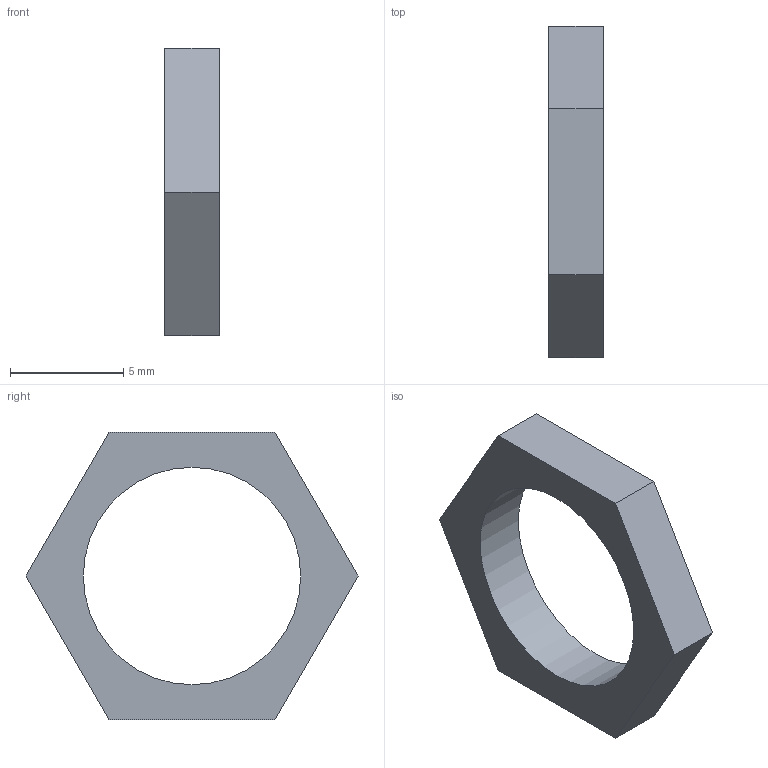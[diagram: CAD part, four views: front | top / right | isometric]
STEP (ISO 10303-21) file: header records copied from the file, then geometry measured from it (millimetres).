
FILE_DESCRIPTION(('Open CASCADE Model'),'2;1');
FILE_NAME('Open CASCADE Shape Model','2026-09-09T10:24:07',('Author'),( 'Open CASCADE'),'Open CASCADE STEP processor 7.8','Open CASCADE 7.8' ,'Unknown');
FILE_SCHEMA(('AUTOMOTIVE_DESIGN { 1 0 10303 214 1 1 1 1 }'));
Length unit declared in the file: millimetre
Products named in the file (1): Open CASCADE STEP translator 7.8 20
Bounding box: 2.39 x 14.66 x 12.7 mm (x, y, z)
Volume: 160.7 mm3; surface area: 311.6 mm2
Topology: 1 solids, 1 shells, 9 faces, 21 edges, 14 vertices
Faces by surface type: plane 8, cylinder 1
Full cylindrical faces by diameter (mm): 9.6 x1
Entity records: 544 total; most frequent: CARTESIAN_POINT 87, DIRECTION 85, LINE 59, VECTOR 59, ORIENTED_EDGE 42, PCURVE 42, DEFINITIONAL_REPRESENTATION 42, EDGE_CURVE 21
